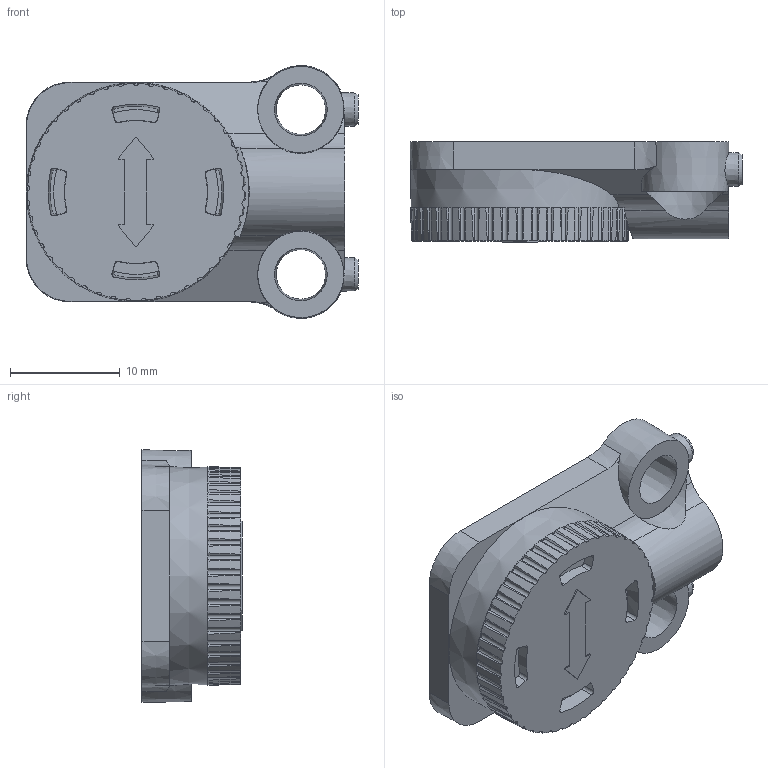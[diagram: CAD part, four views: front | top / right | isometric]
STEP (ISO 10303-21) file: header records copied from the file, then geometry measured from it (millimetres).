
FILE_DESCRIPTION((''),'2;1');
FILE_NAME('C:\TurckZip\P1-Li-QR14_Q17L.stp','2011-09-29T09:21:34',('IKOROL'),(''),'Autodesk Inventor 2010','Autodesk Inventor 2010','');
FILE_SCHEMA(('CONFIG_CONTROL_DESIGN'));
Length unit declared in the file: millimetre
Products named in the file (1): P1-Li-QR14_Q17L
Bounding box: 30.2 x 9.1 x 22.98 mm (x, y, z)
Volume: 3794.2 mm3; surface area: 2483.1 mm2
Topology: 1 solids, 1 shells, 397 faces, 1083 edges, 696 vertices
Faces by surface type: plane 236, cone 91, cylinder 69, torus 1
Full cylindrical faces by diameter (mm): 3.242 x1, 5.5 x1
Entity records: 12680 total; most frequent: DIRECTION 2339, CARTESIAN_POINT 2299, ORIENTED_EDGE 2124, EDGE_CURVE 1062, AXIS2_PLACEMENT_3D 902, VERTEX_POINT 689, VECTOR 535, LINE 535
